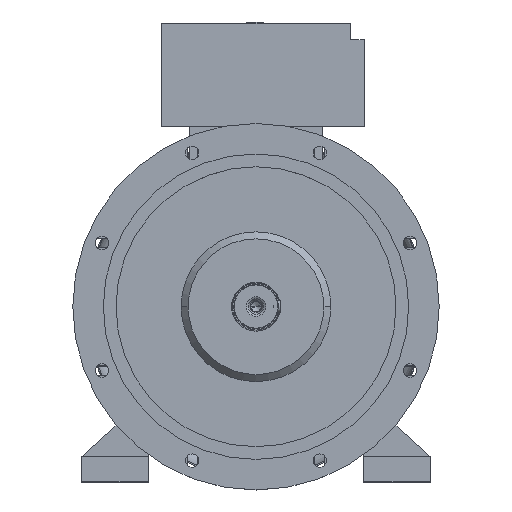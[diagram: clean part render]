
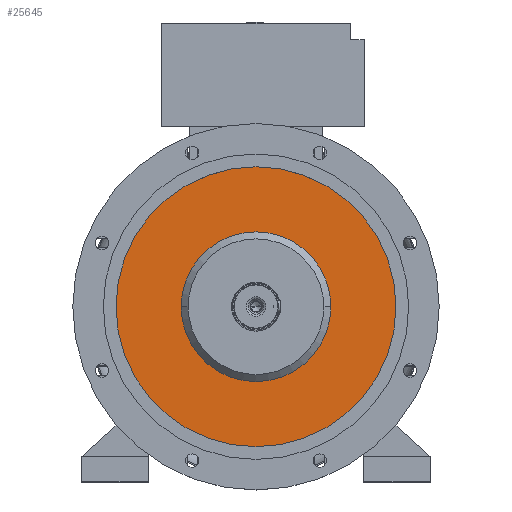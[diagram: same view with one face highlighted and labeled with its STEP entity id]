
A CAD part, top view. The second image highlights one B-rep face of the part: STEP entity #25645.
In plain terms, the highlighted planar face has unit normal (0, 0, 1).
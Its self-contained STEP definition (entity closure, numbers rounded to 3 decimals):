
#972 = CARTESIAN_POINT ( 'NONE',  ( 0., 0., 455.4 ) ) ;
#2280 = VERTEX_POINT ( 'NONE', #11458 ) ;
#2443 = DIRECTION ( 'NONE',  ( 0., 0., -1. ) ) ;
#3596 = EDGE_CURVE ( 'NONE', #10851, #2280, #9165, .T. ) ;
#3784 = VERTEX_POINT ( 'NONE', #9967 ) ;
#4151 = EDGE_CURVE ( 'NONE', #2280, #10851, #8162, .T. ) ;
#5264 = ORIENTED_EDGE ( 'NONE', *, *, #22672, .T. ) ;
#6100 = FACE_OUTER_BOUND ( 'NONE', #20108, .T. ) ;
#6785 = DIRECTION ( 'NONE',  ( 0., 0., -1. ) ) ;
#8162 = CIRCLE ( 'NONE', #24851, 252.083 ) ;
#8731 = ORIENTED_EDGE ( 'NONE', *, *, #4151, .T. ) ;
#9165 = CIRCLE ( 'NONE', #20461, 252.083 ) ;
#9585 = DIRECTION ( 'NONE',  ( 1., 0., 0. ) ) ;
#9967 = CARTESIAN_POINT ( 'NONE',  ( -134.8, 0., 455.4 ) ) ;
#10229 = VERTEX_POINT ( 'NONE', #12408 ) ;
#10851 = VERTEX_POINT ( 'NONE', #15316 ) ;
#11147 = CIRCLE ( 'NONE', #20861, 134.8 ) ;
#11272 = FACE_BOUND ( 'NONE', #14363, .T. ) ;
#11458 = CARTESIAN_POINT ( 'NONE',  ( 252.083, 0., 455.4 ) ) ;
#11599 = PLANE ( 'NONE',  #22804 ) ;
#12408 = CARTESIAN_POINT ( 'NONE',  ( 134.8, 0., 455.4 ) ) ;
#12763 = DIRECTION ( 'NONE',  ( -1., 0., 0. ) ) ;
#13292 = DIRECTION ( 'NONE',  ( -1., 0., 0. ) ) ;
#13819 = CIRCLE ( 'NONE', #16354, 134.8 ) ;
#14363 = EDGE_LOOP ( 'NONE', ( #21899, #5264 ) ) ;
#14911 = CARTESIAN_POINT ( 'NONE',  ( 0., 0., 455.4 ) ) ;
#15316 = CARTESIAN_POINT ( 'NONE',  ( -252.083, 0., 455.4 ) ) ;
#15446 = DIRECTION ( 'NONE',  ( 0., 0., 1. ) ) ;
#16354 = AXIS2_PLACEMENT_3D ( 'NONE', #14911, #6785, #17246 ) ;
#17246 = DIRECTION ( 'NONE',  ( -1., 0., 0. ) ) ;
#17763 = CARTESIAN_POINT ( 'NONE',  ( 0., 252.083, 455.4 ) ) ;
#19607 = DIRECTION ( 'NONE',  ( -1., 0., 0. ) ) ;
#19939 = DIRECTION ( 'NONE',  ( 0., 0., 1. ) ) ;
#20108 = EDGE_LOOP ( 'NONE', ( #25214, #8731 ) ) ;
#20461 = AXIS2_PLACEMENT_3D ( 'NONE', #972, #15446, #19607 ) ;
#20861 = AXIS2_PLACEMENT_3D ( 'NONE', #20918, #2443, #12763 ) ;
#20918 = CARTESIAN_POINT ( 'NONE',  ( 0., 0., 455.4 ) ) ;
#21719 = EDGE_CURVE ( 'NONE', #3784, #10229, #13819, .T. ) ;
#21899 = ORIENTED_EDGE ( 'NONE', *, *, #21719, .T. ) ;
#22672 = EDGE_CURVE ( 'NONE', #10229, #3784, #11147, .T. ) ;
#22804 = AXIS2_PLACEMENT_3D ( 'NONE', #17763, #19939, #9585 ) ;
#23542 = CARTESIAN_POINT ( 'NONE',  ( 0., 0., 455.4 ) ) ;
#24851 = AXIS2_PLACEMENT_3D ( 'NONE', #23542, #25717, #13292 ) ;
#25214 = ORIENTED_EDGE ( 'NONE', *, *, #3596, .T. ) ;
#25645 = ADVANCED_FACE ( 'NONE', ( #11272, #6100 ), #11599, .T. ) ;
#25717 = DIRECTION ( 'NONE',  ( 0., 0., 1. ) ) ;
